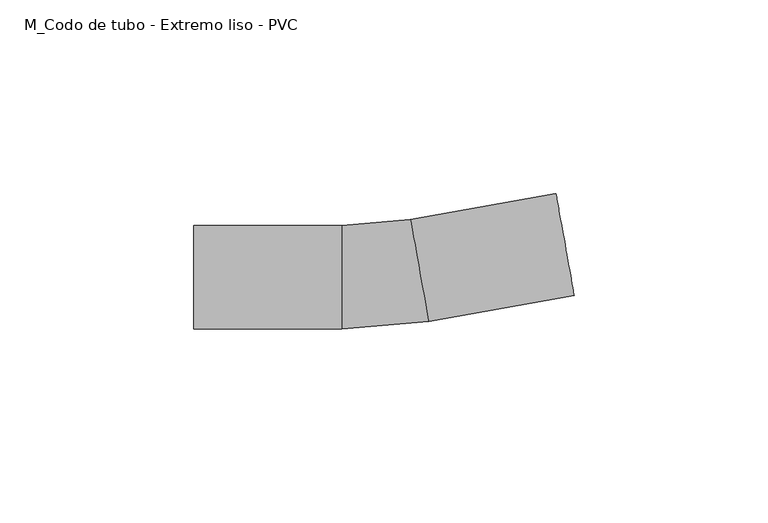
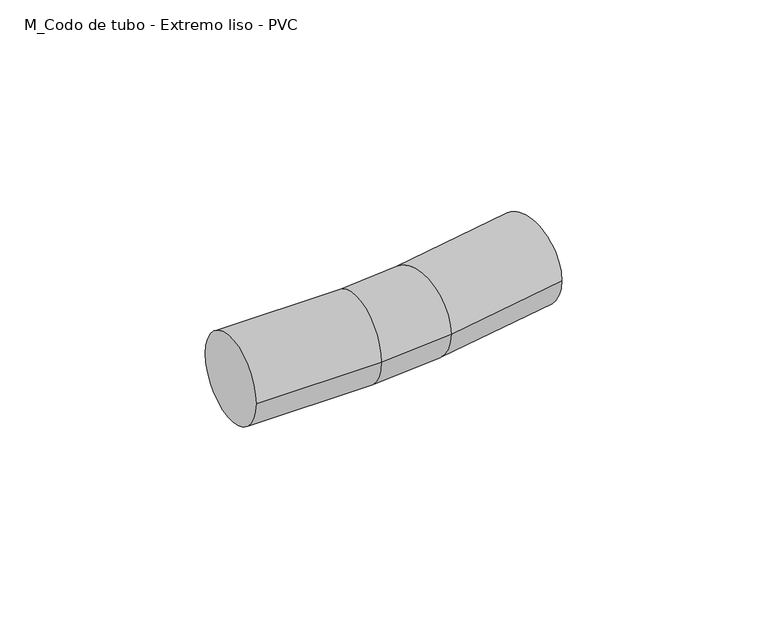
"""IFC4 building model written with IfcOpenShell, lengths in millimetres: cable carrier fitting geometry, M_Codo de tubo - Extremo liso - PVC : CODO ILUMINACION."""

from ifc_helpers import new_model, si_unit, point, frame, origin, place, context, project, spatial, circle_curve, ellipse_curve, trimmed, source, transform, mapped, element, save
from ifc_brep_helpers import plane_surface, cylinder_surface, revolved_surface, advanced_brep


def m_codo_de_tubo_extremo_liso_pvc_7cb120de(model_context):
    return source(origin(), model_context, "Body", "AdvancedBrep", [
        advanced_brep(
        [(-48.2196482, -13.335, 0.0), (-48.2196482, 13.335, 0.0), (-10.1196482, -13.335, 0.0), (-10.1196482, 13.335, 0.0), (7.6193481, 14.9055372, 0.0), (12.3051207, -11.3496039, 0.0), (49.8124652, -4.655643, 0.0), (45.1266926, 21.5994981, 0.0)],
        [
            (0, 1, circle_curve(frame((-48.2196482, 0.0, 0.0), z_axis=(-1.0, 0.0, 0.0), x_axis=(0.0, 1.0, 0.0)), 13.335)),
            (1, 0, circle_curve(frame((-48.2196482, 0.0, 0.0), z_axis=(-1.0, 0.0, 0.0), x_axis=(0.0, 1.0, 0.0)), 13.335)),
            (0, 2),
            (2, 3, circle_curve(frame((-10.1196482, 0.0, 0.0), z_axis=(-1.0, 0.0, 0.0), x_axis=(0.0, 1.0, 0.0)), 13.335)),
            (3, 1),
            (3, 2, circle_curve(frame((-10.1196482, 0.0, 0.0), z_axis=(-1.0, 0.0, 0.0), x_axis=(0.0, 1.0, 0.0)), 13.335)),
            (4, 3, circle_curve(frame((-10.1196482, 114.3, 0.0), z_axis=(0.0, 0.0, -1.0), x_axis=(0.0, -1.0, 0.0)), 100.965)),
            (2, 5, circle_curve(frame((-10.1196482, 114.3, 0.0), z_axis=(0.0, 0.0, 1.0), x_axis=(0.0, -1.0, 0.0)), 127.635)),
            (5, 4, circle_curve(frame((9.9622344, 1.7779667, 0.0), z_axis=(-0.9844447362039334, -0.17569451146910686, 0.0), x_axis=(-0.17569451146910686, 0.9844447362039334, 0.0)), 13.335)),
            (4, 5, circle_curve(frame((9.9622344, 1.7779667, 0.0), z_axis=(-0.9844447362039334, -0.17569451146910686, 0.0), x_axis=(-0.17569451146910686, 0.9844447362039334, 0.0)), 13.335)),
            (6, 7, circle_curve(frame((47.4695789, 8.4719275, 0.0), z_axis=(0.9844447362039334, 0.1756945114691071, 0.0), x_axis=(-0.1756945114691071, 0.9844447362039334, 0.0)), 13.335)),
            (7, 6, circle_curve(frame((47.4695789, 8.4719275, 0.0), z_axis=(0.9844447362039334, 0.1756945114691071, 0.0), x_axis=(-0.1756945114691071, 0.9844447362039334, 0.0)), 13.335)),
            (5, 6),
            (7, 4),
        ],
        [
            plane_surface(frame((-48.2196482, 0.0, 0.0), z_axis=(-1.0, 0.0, 0.0), x_axis=(0.0, 0.0, 1.0))),
            cylinder_surface(frame((-48.2196482, 0.0, 0.0), z_axis=(-1.0, 0.0, 0.0), x_axis=(0.0, 1.0, 0.0)), 13.335),
            revolved_surface(trimmed(ellipse_curve(frame((-10.1196482, 0.0, 0.0), z_axis=(-1.0, 0.0, 0.0), x_axis=(0.0, 1.0, 0.0)), 13.335, 13.335), [point((-10.1196482, -13.335, 0.0))], [point((-10.1196482, 13.335, 0.0))], True, "CARTESIAN"), (-10.1196482, 114.3, 0.0), (0.0, 0.0, 1.0)),
            revolved_surface(trimmed(ellipse_curve(frame((-10.1196482, 0.0, 0.0), z_axis=(-1.0, 0.0, 0.0), x_axis=(0.0, 1.0, 0.0)), 13.335, 13.335), [point((-10.1196482, 13.335, 0.0))], [point((-10.1196482, -13.335, 0.0))], True, "CARTESIAN"), (-10.1196482, 114.3, 0.0), (0.0, 0.0, 1.0)),
            plane_surface(frame((47.4695789, 8.4719275, 0.0), z_axis=(0.9844447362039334, 0.17569451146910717, 0.0), x_axis=(0.0, 0.0, 1.0))),
            cylinder_surface(frame((9.9622344, 1.7779667, 0.0), z_axis=(-0.9844447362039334, -0.1756945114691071, 0.0), x_axis=(-0.1756945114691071, 0.9844447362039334, 0.0)), 13.335),
        ],
        [
            (0, [[1, 2]]),
            (1, [[-1, 3, 4, 5]]),
            (1, [[-2, -5, 6, -3]]),
            (2, [[7, -4, 8, 9]]),
            (3, [[-8, -6, -7, 10]]),
            (4, [[11, 12]]),
            (5, [[-9, 13, -12, 14]]),
            (5, [[-10, -14, -11, -13]]),
        ],
    ),
    ])


if __name__ == "__main__":
    model = new_model("IFC4")
    model_context = context("Model", 3, world=origin())
    ifc_project = project(units=[si_unit("LENGTHUNIT", "METRE", prefix="MILLI")], contexts=[model_context])
    site = spatial("IfcSite", under=ifc_project)
    building = spatial("IfcBuilding", under=site)
    placement = place(None, origin())
    m_codo_de_tubo_extremo_liso_pvc_shape = m_codo_de_tubo_extremo_liso_pvc_7cb120de(model_context)
    element("IfcCableCarrierFitting", 1, ObjectType="M_Codo de tubo - Extremo liso - PVC : CODO ILUMINACION", at=placement, inside=building, context=model_context, shape_type="MappedRepresentation", body=[
        mapped(m_codo_de_tubo_extremo_liso_pvc_shape, transform((0.0, 0.0, 0.0), x_axis=(1.0, 0.0, 0.0), y_axis=(0.0, 1.0, 0.0), z_axis=(0.0, 0.0, 1.0))),
    ])
    save(model, "model.ifc")
